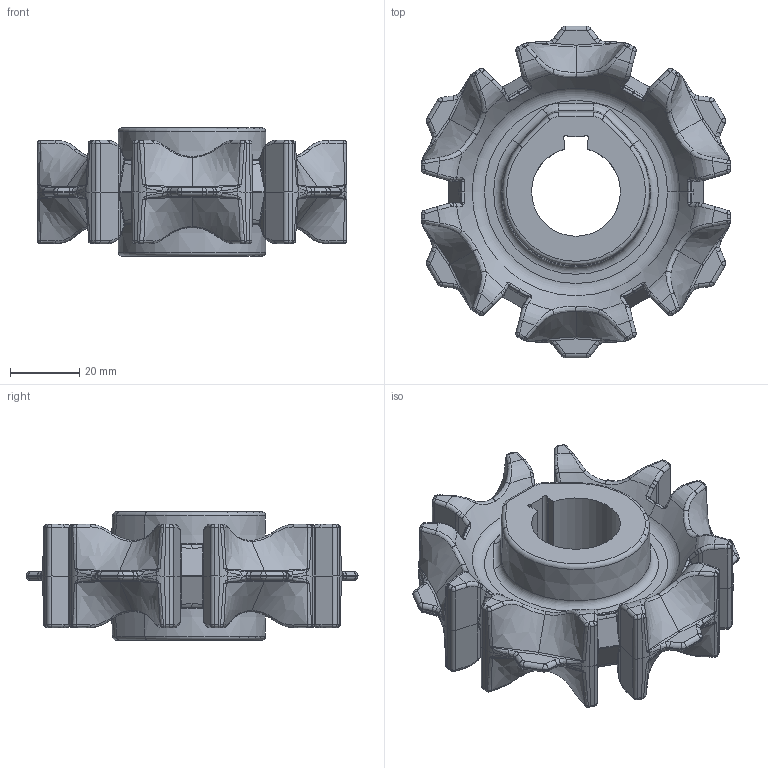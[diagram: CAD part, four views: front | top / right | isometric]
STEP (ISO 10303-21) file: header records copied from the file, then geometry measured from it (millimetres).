
FILE_DESCRIPTION(/* description */ (''),/* implementation_level */ '2;1');
FILE_NAME(/* name */ 'HS-100A-HD-N-6T.stp',/* time_stamp */ '2021-10-12T14:40:38+08:00',/* author */ (''),/* organization */ (''),/* preprocessor_version */ 'ST-DEVELOPER v15',/* originating_system */ 'SIEMENS PLM Software NX 8.5',/* authorisation */ '');
FILE_SCHEMA (('AP203_CONFIGURATION_CONTROLLED_3D_DESIGN_OF_MECHANICAL_PARTS_AND_ASSEMBLIES_MIM_LF { 1 0 10303 403 2 1 2}'));
Products named in the file (1): Admi276CF088u8ls
Bounding box: 89.71 x 96.2 x 37.2 mm (x, y, z)
Volume: 103050.2 mm3; surface area: 27797.5 mm2
Topology: 1 solids, 1 shells, 1204 faces, 2766 edges, 1566 vertices
Faces by surface type: bspline 592, cylinder 317, plane 169, torus 92, cone 34
Entity records: 68969 total; most frequent: CARTESIAN_POINT 39866, ORIENTED_EDGE 5532, EDGE_CURVE 2766, DIRECTION 2414, VERTEX_POINT 1566, B_SPLINE_CURVE_WITH_KNOTS 1527, EDGE_LOOP 1208, PRESENTATION_STYLE_ASSIGNMENT 1205
